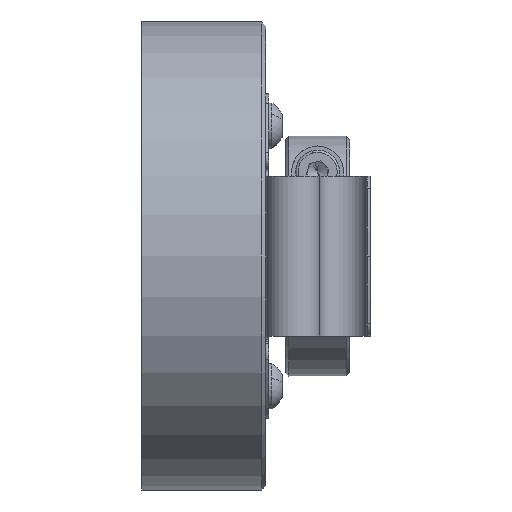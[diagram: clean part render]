
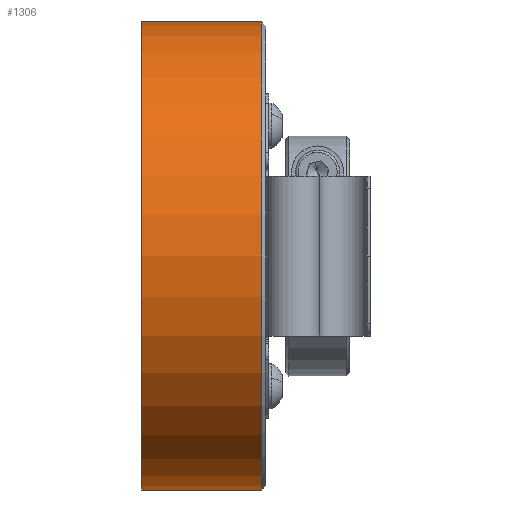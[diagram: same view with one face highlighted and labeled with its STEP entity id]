
A CAD part, left-side view. The second image highlights one B-rep face of the part: STEP entity #1306.
In plain terms, the highlighted cylindrical face has radius 29.25 mm (diameter 58.5 mm), a partial arc.
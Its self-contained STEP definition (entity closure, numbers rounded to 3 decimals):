
#1306 = ADVANCED_FACE ( 'NONE', ( #28270 ), #20173, .T. ) ;
#2642 = CARTESIAN_POINT ( 'NONE',  ( 0., 15.5, 0. ) ) ;
#3221 = AXIS2_PLACEMENT_3D ( 'NONE', #25260, #8100, #25133 ) ;
#4005 = VERTEX_POINT ( 'NONE', #32326 ) ;
#5628 = ORIENTED_EDGE ( 'NONE', *, *, #21244, .F. ) ;
#5887 = CARTESIAN_POINT ( 'NONE',  ( 0., 0.5, 29.25 ) ) ;
#6690 = LINE ( 'NONE', #9741, #14332 ) ;
#7601 = EDGE_CURVE ( 'NONE', #9404, #13638, #29844, .T. ) ;
#8100 = DIRECTION ( 'NONE',  ( 0., 1., 0. ) ) ;
#8895 = CIRCLE ( 'NONE', #3221, 29.25 ) ;
#9404 = VERTEX_POINT ( 'NONE', #5887 ) ;
#9741 = CARTESIAN_POINT ( 'NONE',  ( 0., 32.8, -29.25 ) ) ;
#10198 = CARTESIAN_POINT ( 'NONE',  ( 0., 15.5, 29.25 ) ) ;
#11947 = CARTESIAN_POINT ( 'NONE',  ( 0., 0.5, -29.25 ) ) ;
#13638 = VERTEX_POINT ( 'NONE', #10198 ) ;
#14332 = VECTOR ( 'NONE', #35555, 1000. ) ;
#17394 = ORIENTED_EDGE ( 'NONE', *, *, #26566, .T. ) ;
#19661 = VERTEX_POINT ( 'NONE', #11947 ) ;
#20085 = ORIENTED_EDGE ( 'NONE', *, *, #27767, .F. ) ;
#20173 = CYLINDRICAL_SURFACE ( 'NONE', #29295, 29.25 ) ;
#20690 = CARTESIAN_POINT ( 'NONE',  ( 0., 32.8, 0. ) ) ;
#21244 = EDGE_CURVE ( 'NONE', #19661, #4005, #6690, .T. ) ;
#22255 = VECTOR ( 'NONE', #25079, 1000. ) ;
#24504 = EDGE_LOOP ( 'NONE', ( #5628, #17394, #36215, #20085 ) ) ;
#24962 = CARTESIAN_POINT ( 'NONE',  ( 0., 32.8, 29.25 ) ) ;
#25079 = DIRECTION ( 'NONE',  ( 0., 1., 0. ) ) ;
#25133 = DIRECTION ( 'NONE',  ( 0., 0., -1. ) ) ;
#25260 = CARTESIAN_POINT ( 'NONE',  ( 0., 0.5, 0. ) ) ;
#26566 = EDGE_CURVE ( 'NONE', #19661, #9404, #8895, .T. ) ;
#27767 = EDGE_CURVE ( 'NONE', #4005, #13638, #32235, .T. ) ;
#28270 = FACE_OUTER_BOUND ( 'NONE', #24504, .T. ) ;
#29295 = AXIS2_PLACEMENT_3D ( 'NONE', #20690, #35349, #29565 ) ;
#29565 = DIRECTION ( 'NONE',  ( 0., 0., 1. ) ) ;
#29844 = LINE ( 'NONE', #24962, #22255 ) ;
#31142 = DIRECTION ( 'NONE',  ( 0., 1., 0. ) ) ;
#31273 = DIRECTION ( 'NONE',  ( 0., 0., 1. ) ) ;
#32235 = CIRCLE ( 'NONE', #35266, 29.25 ) ;
#32326 = CARTESIAN_POINT ( 'NONE',  ( 0., 15.5, -29.25 ) ) ;
#35266 = AXIS2_PLACEMENT_3D ( 'NONE', #2642, #31142, #31273 ) ;
#35349 = DIRECTION ( 'NONE',  ( 0., 1., 0. ) ) ;
#35555 = DIRECTION ( 'NONE',  ( 0., 1., 0. ) ) ;
#36215 = ORIENTED_EDGE ( 'NONE', *, *, #7601, .T. ) ;
